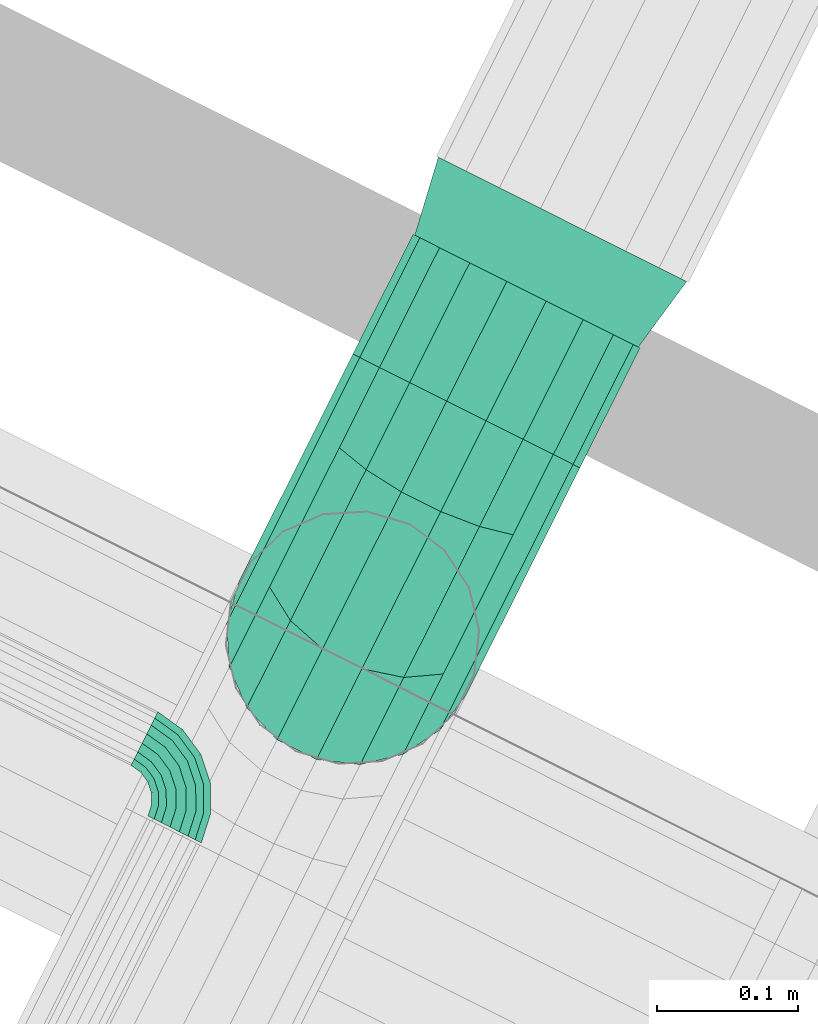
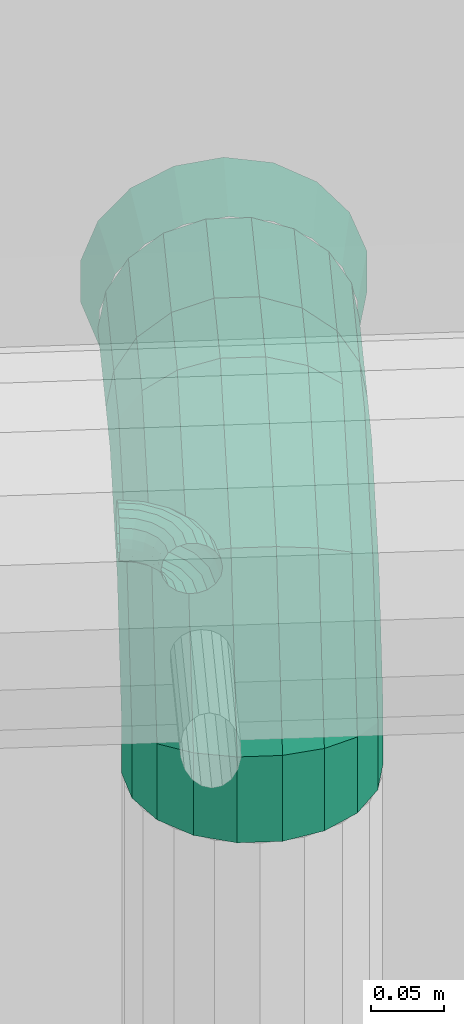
# One storey, part 151 of 206: 2 flow fittings, 2 flow segments.
"""IFC2X3 building model written with IfcOpenShell, lengths in metres."""

from ifc_helpers import new_model, si_unit, derived_unit, direction, frame, origin, place, context, subcontext, project, spatial, face_set, surface_model, source, transform, mapped, material, type_object, type_shapes, element, save


model = new_model("IFC2X3")

# Units and contexts
model_context = context("Model", 3, precision=5.2338327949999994e-05, world=origin(), true_north=direction((0.0, 1.0)))
body_context = subcontext(model_context, "Body", "Model", "MODEL_VIEW")
ifc_project = project(units=[si_unit("LENGTHUNIT", "METRE"), si_unit("AREAUNIT", "SQUARE_METRE"), si_unit("VOLUMEUNIT", "CUBIC_METRE"), si_unit("MASSUNIT", "GRAM", prefix="KILO"), si_unit("PLANEANGLEUNIT", "RADIAN"), derived_unit("THERMALTRANSMITTANCEUNIT", [(si_unit("MASSUNIT", "GRAM", prefix="KILO"), 1), (si_unit("THERMODYNAMICTEMPERATUREUNIT", "KELVIN"), -1), (si_unit("TIMEUNIT", "SECOND"), -3)])], contexts=[model_context])

# Site, building, storey
site_placement = place(None, frame((0.0, 0.0, 0.0), z_axis=(0.0, 0.0, 1.0), x_axis=(0.8939966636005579, -0.4480736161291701, 0.0)))
site = spatial("IfcSite", under=ifc_project, at=site_placement, Name="Default", CompositionType="ELEMENT")
building_placement = place(site_placement, origin())
building = spatial("IfcBuilding", under=site, at=building_placement, CompositionType="ELEMENT")
storey_placement = place(building_placement, origin())
storey = spatial("IfcBuildingStorey", under=building, at=storey_placement, Name="Erdgeschoss", CompositionType="ELEMENT", Elevation=0.0)

# Flow segment
ifc_material_1 = material(Name="IfcSurfaceStyle #352577")
distribution_element_type_1 = type_object("IfcDistributionElementType", Name="Rohrbogen 612133:Rohrbogen 612133", material=ifc_material_1)
shared_shape_1 = source(origin(), body_context, "Body", "SurfaceModel", [
    surface_model("IfcFaceBasedSurfaceModel", [(30.55000000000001, 9.744362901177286, 2.314), (30.55000000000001, 9.74308438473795, 2.3212508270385), (30.57098889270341, 9.739760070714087, 2.321250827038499), (30.571383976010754, 9.740976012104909, 2.314), (30.589923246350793, 9.730112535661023, 2.3212508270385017), (30.590674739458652, 9.731146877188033, 2.3139999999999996), (30.60494963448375, 9.71508614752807, 2.3212508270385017), (30.60598397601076, 9.715837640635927, 2.314000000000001), (30.614597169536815, 9.696151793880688, 2.3212508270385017), (30.61581311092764, 9.696546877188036, 2.3139999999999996), (30.617921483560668, 9.675162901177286, 2.321250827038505), (30.619200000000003, 9.675162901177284, 2.3140000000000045), (30.55000000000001, 9.739403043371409, 2.3276270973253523), (30.569851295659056, 9.736258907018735, 2.3276270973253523), (30.587759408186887, 9.727134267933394, 2.3276270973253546), (30.601971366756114, 9.712922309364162, 2.3276270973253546), (30.611096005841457, 9.69501419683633, 2.3276270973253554), (30.614240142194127, 9.675162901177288, 2.327627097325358), (30.55000000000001, 9.733762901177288, 2.332359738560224), (30.568108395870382, 9.730894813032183, 2.332359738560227), (30.58444421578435, 9.72257129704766, 2.3323597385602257), (30.59740839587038, 9.709607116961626, 2.3323597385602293), (30.605731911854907, 9.693271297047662, 2.332359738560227), (30.60860000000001, 9.675162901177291, 2.3323597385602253), (30.55000000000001, 9.726844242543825, 2.3348779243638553), (30.56597041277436, 9.724314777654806, 2.334877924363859), (30.580377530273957, 9.71697398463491, 2.3348779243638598), (30.591811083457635, 9.705540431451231, 2.3348779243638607), (30.599151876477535, 9.691133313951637, 2.334877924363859), (30.60168134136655, 9.675162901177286, 2.3348779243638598), (30.55000000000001, 9.71948155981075, 2.3348779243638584), (30.563695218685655, 9.717312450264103, 2.3348779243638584), (30.576049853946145, 9.71101744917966, 2.3348779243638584), (30.585854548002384, 9.70121275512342, 2.334877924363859), (30.592149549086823, 9.688858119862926, 2.3348779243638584), (30.594318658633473, 9.675162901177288, 2.3348779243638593), (30.55000000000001, 9.712562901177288, 2.332359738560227), (30.561557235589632, 9.71073241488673, 2.3323597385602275), (30.57198316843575, 9.705420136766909, 2.3323597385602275), (30.58025723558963, 9.697146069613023, 2.332359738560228), (30.58556951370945, 9.686720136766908, 2.332359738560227), (30.587400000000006, 9.675162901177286, 2.33235973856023), (30.55000000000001, 9.706922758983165, 2.327627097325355), (30.559814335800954, 9.705368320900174, 2.3276270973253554), (30.56866797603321, 9.700857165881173, 2.327627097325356), (30.5756942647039, 9.69383087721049, 2.327627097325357), (30.580205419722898, 9.68497723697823, 2.327627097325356), (30.581759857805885, 9.675162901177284, 2.3276270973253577), (30.55000000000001, 9.703241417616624, 2.321250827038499), (30.5586767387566, 9.70186715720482, 2.321250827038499), (30.566504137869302, 9.697878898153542, 2.3212508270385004), (30.572715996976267, 9.691667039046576, 2.321250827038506), (30.576704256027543, 9.683839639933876, 2.321250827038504), (30.578078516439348, 9.675162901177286, 2.321250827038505), (30.55000000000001, 9.701962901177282, 2.3140000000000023), (30.558281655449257, 9.700651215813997, 2.314000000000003), (30.56575264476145, 9.696844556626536, 2.3140000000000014), (30.571681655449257, 9.690915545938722, 2.314000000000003), (30.57548831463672, 9.683444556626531, 2.314000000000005), (30.576800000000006, 9.675162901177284, 2.3140000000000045), (30.55000000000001, 9.703241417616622, 2.306749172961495), (30.5586767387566, 9.701867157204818, 2.3067491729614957), (30.566504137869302, 9.697878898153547, 2.3067491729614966), (30.572715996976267, 9.691667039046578, 2.306749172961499), (30.57670425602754, 9.683839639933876, 2.306749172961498), (30.57807851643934, 9.675162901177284, 2.3067491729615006), (30.55000000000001, 9.706922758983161, 2.3003729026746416), (30.559814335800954, 9.705368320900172, 2.3003729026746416), (30.568667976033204, 9.700857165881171, 2.300372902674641), (30.575694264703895, 9.693830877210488, 2.3003729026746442), (30.580205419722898, 9.68497723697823, 2.3003729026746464), (30.58175985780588, 9.675162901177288, 2.3003729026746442), (30.55000000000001, 9.712562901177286, 2.295640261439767), (30.561557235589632, 9.710732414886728, 2.2956402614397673), (30.57198316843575, 9.705420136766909, 2.2956402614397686), (30.58025723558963, 9.69714606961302, 2.2956402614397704), (30.58556951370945, 9.686720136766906, 2.2956402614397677), (30.587400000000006, 9.675162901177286, 2.2956402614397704), (30.55000000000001, 9.719481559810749, 2.2931220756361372), (30.563695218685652, 9.717312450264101, 2.2931220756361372), (30.57604985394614, 9.71101744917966, 2.2931220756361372), (30.585854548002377, 9.701212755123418, 2.2931220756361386), (30.592149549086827, 9.688858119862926, 2.293122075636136), (30.59431865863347, 9.675162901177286, 2.2931220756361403), (30.55000000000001, 9.726844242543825, 2.2931220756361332), (30.56597041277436, 9.724314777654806, 2.293122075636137), (30.580377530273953, 9.71697398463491, 2.293122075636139), (30.591811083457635, 9.70554043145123, 2.293122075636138), (30.59915187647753, 9.691133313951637, 2.2931220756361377), (30.60168134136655, 9.675162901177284, 2.29312207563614), (30.55000000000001, 9.733762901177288, 2.295640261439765), (30.56810839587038, 9.73089481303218, 2.295640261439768), (30.58444421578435, 9.72257129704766, 2.2956402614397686), (30.59740839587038, 9.709607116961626, 2.2956402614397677), (30.605731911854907, 9.693271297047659, 2.2956402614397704), (30.608600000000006, 9.675162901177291, 2.2956402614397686), (30.55000000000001, 9.739403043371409, 2.3003729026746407), (30.569851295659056, 9.736258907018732, 2.3003729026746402), (30.587759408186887, 9.727134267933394, 2.30037290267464), (30.601971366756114, 9.712922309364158, 2.3003729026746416), (30.61109600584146, 9.695014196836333, 2.300372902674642), (30.614240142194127, 9.675162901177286, 2.300372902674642), (30.55000000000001, 9.74308438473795, 2.3067491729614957), (30.57098889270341, 9.73976007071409, 2.3067491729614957), (30.589923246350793, 9.730112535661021, 2.306749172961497), (30.604949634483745, 9.71508614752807, 2.306749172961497), (30.614597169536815, 9.696151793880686, 2.306749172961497), (30.617921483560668, 9.675162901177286, 2.3067491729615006)], [face_set([[[0, 1, 2, 3]], [[3, 2, 4, 5]], [[5, 4, 6, 7]], [[7, 6, 8, 9]], [[9, 8, 10, 11]], [[1, 12, 13, 2]], [[2, 13, 14, 4]], [[4, 14, 15, 6]], [[6, 15, 16, 8]], [[8, 16, 17, 10]], [[12, 18, 19, 13]], [[13, 19, 20, 14]], [[14, 20, 21, 15]], [[15, 21, 22, 16]], [[16, 22, 23, 17]], [[18, 24, 25, 19]], [[19, 25, 26, 20]], [[20, 26, 27, 21]], [[21, 27, 28, 22]], [[22, 28, 29, 23]], [[24, 30, 31, 25]], [[25, 31, 32, 26]], [[26, 32, 33, 27]], [[27, 33, 34, 28]], [[28, 34, 35, 29]], [[30, 36, 37, 31]], [[31, 37, 38, 32]], [[32, 38, 39, 33]], [[33, 39, 40, 34]], [[34, 40, 41, 35]], [[36, 42, 43, 37]], [[37, 43, 44, 38]], [[38, 44, 45, 39]], [[39, 45, 46, 40]], [[40, 46, 47, 41]], [[42, 48, 49, 43]], [[43, 49, 50, 44]], [[44, 50, 51, 45]], [[45, 51, 52, 46]], [[46, 52, 53, 47]], [[48, 54, 55, 49]], [[49, 55, 56, 50]], [[50, 56, 57, 51]], [[51, 57, 58, 52]], [[52, 58, 59, 53]], [[54, 60, 61, 55]], [[55, 61, 62, 56]], [[56, 62, 63, 57]], [[57, 63, 64, 58]], [[58, 64, 65, 59]], [[60, 66, 67, 61]], [[61, 67, 68, 62]], [[62, 68, 69, 63]], [[63, 69, 70, 64]], [[64, 70, 71, 65]], [[66, 72, 73, 67]], [[67, 73, 74, 68]], [[68, 74, 75, 69]], [[69, 75, 76, 70]], [[70, 76, 77, 71]], [[72, 78, 79, 73]], [[73, 79, 80, 74]], [[74, 80, 81, 75]], [[75, 81, 82, 76]], [[76, 82, 83, 77]], [[78, 84, 85, 79]], [[79, 85, 86, 80]], [[80, 86, 87, 81]], [[81, 87, 88, 82]], [[82, 88, 89, 83]], [[84, 90, 91, 85]], [[85, 91, 92, 86]], [[86, 92, 93, 87]], [[87, 93, 94, 88]], [[88, 94, 95, 89]], [[90, 96, 97, 91]], [[91, 97, 98, 92]], [[92, 98, 99, 93]], [[93, 99, 100, 94]], [[94, 100, 101, 95]], [[96, 102, 103, 97]], [[97, 103, 104, 98]], [[98, 104, 105, 99]], [[99, 105, 106, 100]], [[100, 106, 107, 101]], [[102, 0, 3, 103]], [[103, 3, 5, 104]], [[104, 5, 7, 105]], [[105, 7, 9, 106]], [[106, 9, 11, 107]]])]),
])
type_shapes(distribution_element_type_1, [shared_shape_1])
flow_segment_1_placement = place(storey_placement, origin())
element("IfcFlowSegment", 1, at=flow_segment_1_placement, inside=storey, type_object=distribution_element_type_1, material=ifc_material_1, Name="Rohrbogen", ObjectType="Rohrbogen", context=body_context, shape_type="MappedRepresentation", body=[
    mapped(shared_shape_1, transform((0.0, 0.0, 0.0), scale=1.0)),
])

# Flow fitting
ifc_material_2 = material(Name="IfcSurfaceStyle #251447")
distribution_element_type_2 = type_object("IfcDistributionElementType", Name="Segmentbogen 4 teilig 614290:Segmentbogen 4 teilig 614290", material=ifc_material_2)
shared_shape_2 = source(origin(), body_context, "Body", "SurfaceModel", [
    surface_model("IfcFaceBasedSurfaceModel", [(30.739999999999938, 9.853208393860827, 2.02), (30.734572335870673, 9.883990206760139, 2.02), (30.734572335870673, 9.883990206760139, 2.059982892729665), (30.739999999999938, 9.853208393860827, 2.0682308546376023), (30.71894399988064, 9.911059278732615, 2.02), (30.71894399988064, 9.911059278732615, 2.0527297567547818), (30.69499999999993, 9.931150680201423, 2.02), (30.69499999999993, 9.931150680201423, 2.0473462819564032), (30.665628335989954, 9.941841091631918, 2.02), (30.665628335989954, 9.941841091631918, 2.0444817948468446), (30.634371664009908, 9.941841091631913, 2.02), (30.634371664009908, 9.941841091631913, 2.0444817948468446), (30.60499999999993, 9.93115068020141, 2.02), (30.60499999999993, 9.93115068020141, 2.0473462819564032), (30.581056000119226, 9.911059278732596, 2.02), (30.581056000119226, 9.911059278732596, 2.0527297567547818), (30.565427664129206, 9.883990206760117, 2.02), (30.565427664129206, 9.883990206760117, 2.059982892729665), (30.559999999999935, 9.853208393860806, 2.02), (30.559999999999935, 9.853208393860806, 2.0682308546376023), (30.56542766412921, 9.822426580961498, 2.02), (30.56542766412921, 9.822426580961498, 2.0764788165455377), (30.581056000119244, 9.79535750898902, 2.02), (30.581056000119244, 9.79535750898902, 2.0837319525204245), (30.604999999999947, 9.775266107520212, 2.02), (30.604999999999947, 9.775266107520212, 2.0891154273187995), (30.634371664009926, 9.764575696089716, 2.02), (30.634371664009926, 9.764575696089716, 2.09197991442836), (30.665628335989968, 9.76457569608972, 2.02), (30.665628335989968, 9.76457569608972, 2.09197991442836), (30.694999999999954, 9.775266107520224, 2.02), (30.694999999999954, 9.775266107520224, 2.0891154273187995), (30.718943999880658, 9.795357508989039, 2.02), (30.718943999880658, 9.795357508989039, 2.0837319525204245), (30.734572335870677, 9.822426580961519, 2.02), (30.734572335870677, 9.822426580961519, 2.0764788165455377), (30.734572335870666, 9.923973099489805, 2.1292352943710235), (30.739999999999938, 9.90143924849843, 2.1517691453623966), (30.71894399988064, 9.94378903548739, 2.109419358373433), (30.69499999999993, 9.958496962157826, 2.0947114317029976), (30.665628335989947, 9.966322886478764, 2.086885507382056), (30.634371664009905, 9.966322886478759, 2.0868855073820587), (30.60499999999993, 9.958496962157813, 2.0947114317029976), (30.58105600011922, 9.943789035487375, 2.1094193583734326), (30.565427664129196, 9.923973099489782, 2.129235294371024), (30.55999999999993, 9.901439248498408, 2.151769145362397), (30.565427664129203, 9.878905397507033, 2.174302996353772), (30.581056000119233, 9.859089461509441, 2.1941189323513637), (30.60499999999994, 9.844381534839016, 2.208826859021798), (30.63437166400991, 9.836555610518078, 2.216652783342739), (30.66562833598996, 9.83655561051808, 2.216652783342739), (30.69499999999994, 9.844381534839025, 2.2088268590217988), (30.718943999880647, 9.85908946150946, 2.1941189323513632), (30.734572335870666, 9.878905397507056, 2.1743029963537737), (30.734572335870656, 9.993225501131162, 2.169218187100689), (30.73999999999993, 9.984977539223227, 2.199999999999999), (30.718943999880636, 10.000478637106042, 2.1421491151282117), (30.694999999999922, 10.005862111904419, 2.1220577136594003), (30.665628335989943, 10.008726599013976, 2.111367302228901), (30.6343716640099, 10.00872659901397, 2.1113673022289), (30.604999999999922, 10.005862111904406, 2.122057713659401), (30.58105600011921, 10.000478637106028, 2.1421491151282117), (30.56542766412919, 9.993225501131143, 2.1692181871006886), (30.559999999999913, 9.984977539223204, 2.2), (30.56542766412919, 9.976729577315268, 2.2307818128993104), (30.581056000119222, 9.969476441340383, 2.2578508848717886), (30.60499999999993, 9.96409296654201, 2.2779422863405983), (30.634371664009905, 9.961228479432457, 2.2886326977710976), (30.665628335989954, 9.96122847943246, 2.2886326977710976), (30.69499999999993, 9.96409296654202, 2.2779422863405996), (30.718943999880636, 9.969476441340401, 2.25785088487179), (30.73457233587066, 9.97672957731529, 2.2307818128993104), (30.73457233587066, 10.033208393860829, 2.1692181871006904), (30.739999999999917, 10.033208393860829, 2.1999999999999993), (30.718943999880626, 10.033208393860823, 2.142149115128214), (30.694999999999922, 10.033208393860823, 2.1220577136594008), (30.66562833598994, 10.03320839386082, 2.111367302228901), (30.634371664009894, 10.033208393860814, 2.1113673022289), (30.604999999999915, 10.033208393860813, 2.1220577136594), (30.58105600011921, 10.033208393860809, 2.1421491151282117), (30.56542766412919, 10.033208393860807, 2.169218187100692), (30.55999999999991, 10.033208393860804, 2.2000000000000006), (30.56542766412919, 10.033208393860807, 2.23078181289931), (30.58105600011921, 10.033208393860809, 2.2578508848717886), (30.604999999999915, 10.033208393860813, 2.2779422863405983), (30.634371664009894, 10.033208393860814, 2.288632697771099), (30.66562833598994, 10.03320839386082, 2.2886326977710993), (30.694999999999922, 10.033208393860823, 2.2779422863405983), (30.718943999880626, 10.033208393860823, 2.2578508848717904), (30.734572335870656, 10.033208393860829, 2.2307818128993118)], [face_set([[[0, 1, 2, 3]], [[1, 4, 5, 2]], [[4, 6, 7, 5]], [[6, 8, 9, 7]], [[8, 10, 11, 9]], [[10, 12, 13, 11]], [[12, 14, 15, 13]], [[14, 16, 17, 15]], [[16, 18, 19, 17]], [[18, 20, 21, 19]], [[20, 22, 23, 21]], [[22, 24, 25, 23]], [[24, 26, 27, 25]], [[26, 28, 29, 27]], [[28, 30, 31, 29]], [[30, 32, 33, 31]], [[32, 34, 35, 33]], [[34, 0, 3, 35]], [[3, 2, 36, 37]], [[2, 5, 38, 36]], [[5, 7, 39, 38]], [[7, 9, 40, 39]], [[9, 11, 41, 40]], [[11, 13, 42, 41]], [[13, 15, 43, 42]], [[15, 17, 44, 43]], [[17, 19, 45, 44]], [[19, 21, 46, 45]], [[21, 23, 47, 46]], [[23, 25, 48, 47]], [[25, 27, 49, 48]], [[27, 29, 50, 49]], [[29, 31, 51, 50]], [[31, 33, 52, 51]], [[33, 35, 53, 52]], [[35, 3, 37, 53]], [[37, 36, 54, 55]], [[36, 38, 56, 54]], [[38, 39, 57, 56]], [[39, 40, 58, 57]], [[40, 41, 59, 58]], [[41, 42, 60, 59]], [[42, 43, 61, 60]], [[43, 44, 62, 61]], [[44, 45, 63, 62]], [[45, 46, 64, 63]], [[46, 47, 65, 64]], [[47, 48, 66, 65]], [[48, 49, 67, 66]], [[49, 50, 68, 67]], [[50, 51, 69, 68]], [[51, 52, 70, 69]], [[52, 53, 71, 70]], [[53, 37, 55, 71]], [[55, 54, 72, 73]], [[54, 56, 74, 72]], [[56, 57, 75, 74]], [[57, 58, 76, 75]], [[58, 59, 77, 76]], [[59, 60, 78, 77]], [[60, 61, 79, 78]], [[61, 62, 80, 79]], [[62, 63, 81, 80]], [[63, 64, 82, 81]], [[64, 65, 83, 82]], [[65, 66, 84, 83]], [[66, 67, 85, 84]], [[67, 68, 86, 85]], [[68, 69, 87, 86]], [[69, 70, 88, 87]], [[70, 71, 89, 88]], [[71, 55, 73, 89]]])]),
])
type_shapes(distribution_element_type_2, [shared_shape_2])
flow_fitting_1_placement = place(storey_placement, origin())
element("IfcFlowFitting", 2, at=flow_fitting_1_placement, inside=storey, type_object=distribution_element_type_2, material=ifc_material_2, Name="Segmentbogen 4 teilig", ObjectType="Segmentbogen 4 teilig", context=body_context, shape_type="MappedRepresentation", body=[
    mapped(shared_shape_2, transform((0.0, 0.0, 0.0), scale=1.0)),
])

# Flow segment
distribution_element_type_3 = type_object("IfcDistributionElementType", Name="Muffe:Muffe", material=ifc_material_2)
shared_shape_3 = source(origin(), body_context, "Body", "SurfaceModel", [
    surface_model("IfcFaceBasedSurfaceModel", [(30.739999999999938, 10.033208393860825, 2.199999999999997), (30.734572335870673, 10.033208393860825, 2.1692181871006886), (30.734572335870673, 10.128208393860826, 2.1692181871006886), (30.73999999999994, 10.128208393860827, 2.1999999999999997), (30.718943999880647, 10.033208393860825, 2.1421491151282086), (30.718943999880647, 10.128208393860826, 2.142149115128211), (30.69499999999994, 10.033208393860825, 2.1220577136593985), (30.69499999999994, 10.128208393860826, 2.1220577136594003), (30.66562833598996, 10.033208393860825, 2.111367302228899), (30.66562833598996, 10.128208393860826, 2.111367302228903), (30.634371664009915, 10.033208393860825, 2.1113673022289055), (30.63437166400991, 10.128208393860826, 2.111367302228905), (30.60499999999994, 10.033208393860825, 2.1220577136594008), (30.60499999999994, 10.128208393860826, 2.1220577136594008), (30.58105600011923, 10.033208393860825, 2.142149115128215), (30.58105600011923, 10.128208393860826, 2.142149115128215), (30.56542766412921, 10.033208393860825, 2.16921818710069), (30.56542766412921, 10.128208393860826, 2.1692181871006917), (30.55999999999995, 10.033208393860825, 2.1999999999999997), (30.559999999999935, 10.128208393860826, 2.200000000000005), (30.565427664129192, 10.033208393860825, 2.230781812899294), (30.565427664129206, 10.128208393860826, 2.230781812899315), (30.581056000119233, 10.033208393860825, 2.2578508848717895), (30.581056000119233, 10.128208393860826, 2.2578508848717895), (30.604999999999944, 10.033208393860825, 2.277942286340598), (30.604999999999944, 10.128208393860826, 2.2779422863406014), (30.634371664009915, 10.033208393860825, 2.288632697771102), (30.634371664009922, 10.128208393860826, 2.288632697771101), (30.665628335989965, 10.033208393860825, 2.2886326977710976), (30.66562833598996, 10.128208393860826, 2.2886326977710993), (30.694999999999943, 10.033208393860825, 2.2779422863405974), (30.694999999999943, 10.128208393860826, 2.2779422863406), (30.718943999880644, 10.033208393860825, 2.257850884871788), (30.718943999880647, 10.128208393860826, 2.2578508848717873), (30.73457233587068, 10.033208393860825, 2.230781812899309), (30.734572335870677, 10.128208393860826, 2.2307818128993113)], [face_set([[[0, 1, 2, 3]], [[1, 4, 5, 2]], [[4, 6, 7, 5]], [[6, 8, 9, 7]], [[8, 10, 11, 9]], [[10, 12, 13, 11]], [[12, 14, 15, 13]], [[14, 16, 17, 15]], [[16, 18, 19, 17]], [[18, 20, 21, 19]], [[20, 22, 23, 21]], [[22, 24, 25, 23]], [[24, 26, 27, 25]], [[26, 28, 29, 27]], [[28, 30, 31, 29]], [[30, 32, 33, 31]], [[32, 34, 35, 33]], [[34, 0, 3, 35]]])]),
])
type_shapes(distribution_element_type_3, [shared_shape_3])
flow_segment_2_placement = place(storey_placement, origin())
element("IfcFlowSegment", 3, at=flow_segment_2_placement, inside=storey, type_object=distribution_element_type_3, material=ifc_material_2, Name="Muffe", ObjectType="Muffe", context=body_context, shape_type="MappedRepresentation", body=[
    mapped(shared_shape_3, transform((0.0, 0.0, 0.0), scale=1.0)),
])

# Flow fitting
distribution_element_type_4 = type_object("IfcDistributionElementType", Name="Konisches Übergangsstück:Konisches Übergangsstück", material=ifc_material_2)
shared_shape_4 = source(origin(), body_context, "Body", "SurfaceModel", [
    surface_model("IfcFaceBasedSurfaceModel", [(30.649999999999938, 10.128208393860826, 2.1100000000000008), (30.619218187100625, 10.128208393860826, 2.1154276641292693), (30.615797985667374, 10.185208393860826, 2.1060307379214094), (30.64999999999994, 10.185208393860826, 2.1), (30.592149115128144, 10.128208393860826, 2.1310560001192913), (30.58572123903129, 10.185208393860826, 2.123395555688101), (30.57205771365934, 10.128208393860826, 2.155000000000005), (30.563397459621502, 10.185208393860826, 2.150000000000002), (30.561367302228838, 10.128208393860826, 2.1843716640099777), (30.551519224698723, 10.185208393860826, 2.1826351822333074), (30.561367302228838, 10.128208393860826, 2.215628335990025), (30.551519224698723, 10.185208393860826, 2.217364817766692), (30.57205771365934, 10.128208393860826, 2.2450000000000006), (30.5633974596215, 10.185208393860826, 2.2499999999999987), (30.59214911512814, 10.128208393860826, 2.268943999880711), (30.585721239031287, 10.185208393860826, 2.2766044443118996), (30.619218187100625, 10.128208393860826, 2.284572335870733), (30.615797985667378, 10.185208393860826, 2.2939692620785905), (30.649999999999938, 10.128208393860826, 2.2900000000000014), (30.64999999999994, 10.185208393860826, 2.2999999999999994), (30.680781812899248, 10.128208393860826, 2.2845723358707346), (30.68420201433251, 10.185208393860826, 2.2939692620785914), (30.70785088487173, 10.128208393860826, 2.268943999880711), (30.714278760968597, 10.185208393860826, 2.2766044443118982), (30.727942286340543, 10.128208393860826, 2.245000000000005), (30.73660254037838, 10.185208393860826, 2.2500000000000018), (30.73863269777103, 10.128208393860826, 2.2156283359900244), (30.748480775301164, 10.185208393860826, 2.2173648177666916), (30.738632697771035, 10.128208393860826, 2.184371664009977), (30.748480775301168, 10.185208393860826, 2.1826351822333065), (30.72794228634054, 10.128208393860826, 2.1550000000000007), (30.73660254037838, 10.185208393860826, 2.149999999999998), (30.70785088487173, 10.128208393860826, 2.13105600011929), (30.714278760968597, 10.185208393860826, 2.123395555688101), (30.680781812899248, 10.128208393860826, 2.11542766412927), (30.68420201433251, 10.185208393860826, 2.106030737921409)], [face_set([[[0, 1, 2, 3]], [[1, 4, 5, 2]], [[4, 6, 7, 5]], [[6, 8, 9, 7]], [[8, 10, 11, 9]], [[10, 12, 13, 11]], [[12, 14, 15, 13]], [[14, 16, 17, 15]], [[16, 18, 19, 17]], [[18, 20, 21, 19]], [[20, 22, 23, 21]], [[22, 24, 25, 23]], [[24, 26, 27, 25]], [[26, 28, 29, 27]], [[28, 30, 31, 29]], [[30, 32, 33, 31]], [[32, 34, 35, 33]], [[34, 0, 3, 35]]])]),
])
type_shapes(distribution_element_type_4, [shared_shape_4])
flow_fitting_2_placement = place(storey_placement, origin())
element("IfcFlowFitting", 4, at=flow_fitting_2_placement, inside=storey, type_object=distribution_element_type_4, material=ifc_material_2, Name="Konisches Übergangsstück", ObjectType="Konisches Übergangsstück", context=body_context, shape_type="MappedRepresentation", body=[
    mapped(shared_shape_4, transform((0.0, 0.0, 0.0), scale=1.0)),
])

save(model, "model.ifc")
